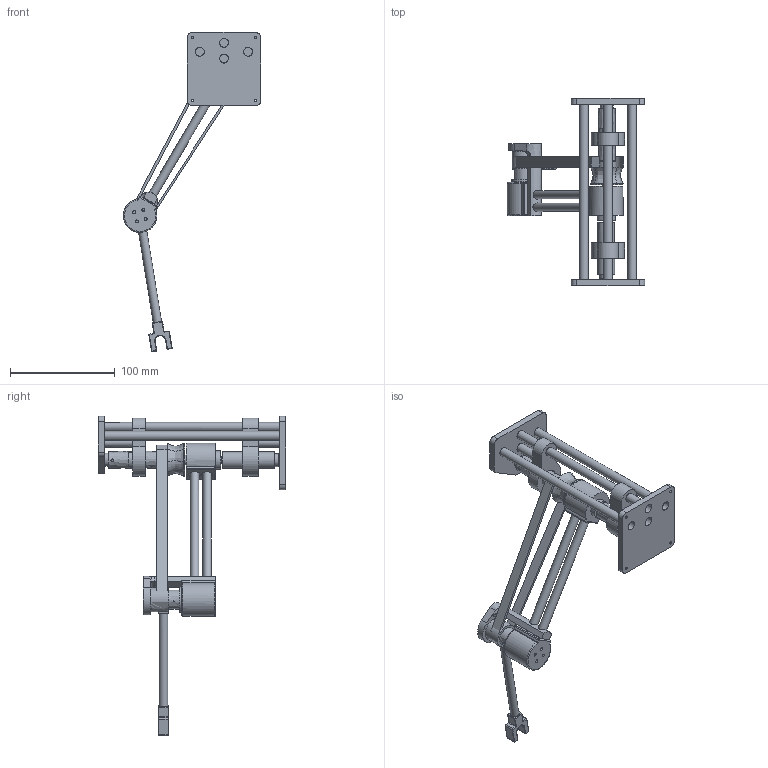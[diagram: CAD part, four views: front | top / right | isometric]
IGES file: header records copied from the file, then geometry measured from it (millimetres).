
Global section: file name: Design v27; native system: unknown; preprocessor: unknown; author: matteo.cecamore; organization: unknown; date: 20190416.141344; units: millimetre
Bounding box: 131.07 x 179.17 x 304.69 mm (x, y, z)
Volume: 229952.9 mm3; surface area: 99222.1 mm2
Topology: 26 solids, 26 shells, 392 faces, 863 edges, 565 vertices
Faces by surface type: bspline 392
